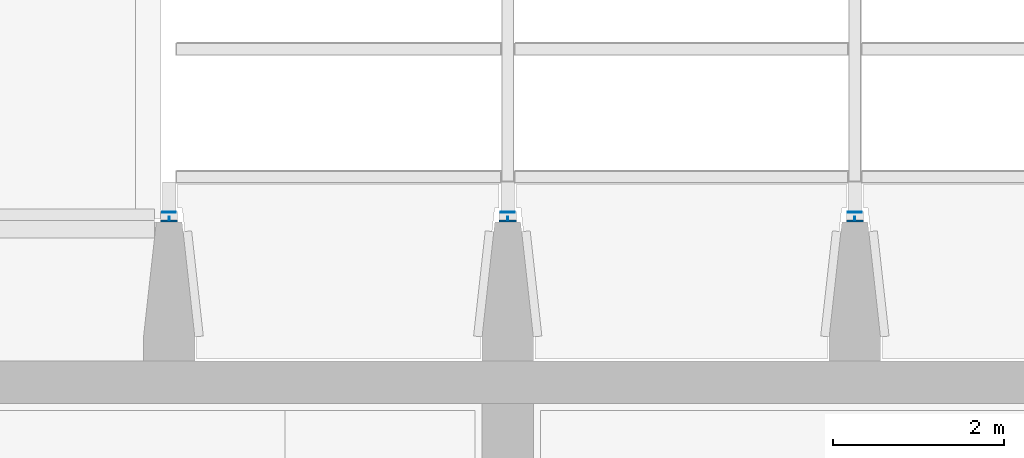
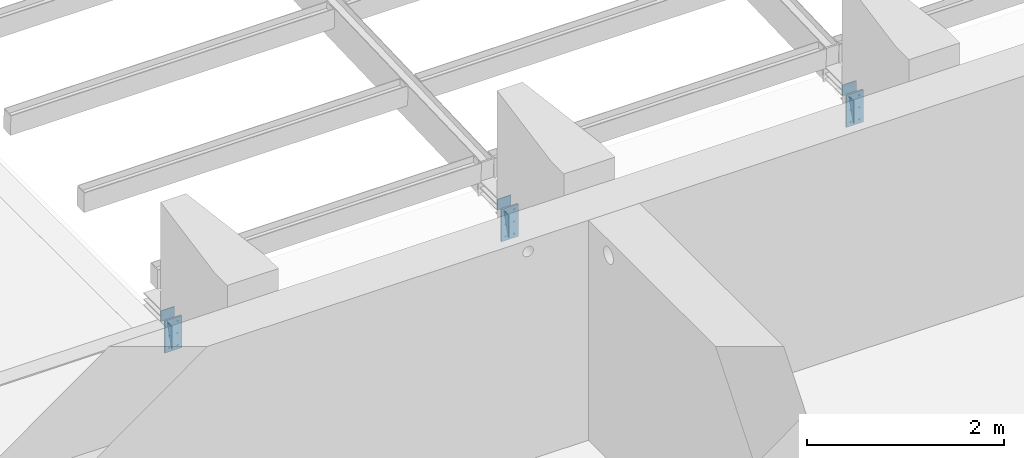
# One storey, part 8 of 31: 9 columns.
"""IFC2X3 building model written with IfcOpenShell, lengths in millimetres."""

from ifc_helpers import new_model, entity, si_unit, converted_unit, derived_unit, direction, frame, frame_2d, origin, origin_2d_with_axis, place, context, subcontext, project, spatial, rectangle, circle, extrude, boolean, clip, halfspace, source, transform, mapped, material, type_object, type_shapes, element, save


model = new_model("IFC2X3")

# Units and contexts
model_context = context("Model", 3, precision=0.01, world=origin(), true_north=direction((6.12303176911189e-17, 1.0)))
body_context = subcontext(model_context, "Body", "Model", "MODEL_VIEW")
ifc_project = project(units=[si_unit("LENGTHUNIT", "METRE", prefix="MILLI"), si_unit("AREAUNIT", "SQUARE_METRE"), si_unit("VOLUMEUNIT", "CUBIC_METRE"), converted_unit("PLANEANGLEUNIT", "DEGREE", entity("IfcRatioMeasure", 0.0174532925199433), si_unit("PLANEANGLEUNIT", "RADIAN"), dimensions=[0, 0, 0, 0, 0, 0, 0]), si_unit("MASSUNIT", "GRAM", prefix="KILO"), derived_unit("MASSDENSITYUNIT", [(si_unit("MASSUNIT", "GRAM", prefix="KILO"), 1), (si_unit("LENGTHUNIT", "METRE"), -3)]), si_unit("TIMEUNIT", "SECOND"), si_unit("FREQUENCYUNIT", "HERTZ"), si_unit("THERMODYNAMICTEMPERATUREUNIT", "DEGREE_CELSIUS"), derived_unit("THERMALTRANSMITTANCEUNIT", [(si_unit("MASSUNIT", "GRAM", prefix="KILO"), 1), (si_unit("THERMODYNAMICTEMPERATUREUNIT", "KELVIN"), -1), (si_unit("TIMEUNIT", "SECOND"), -3)]), derived_unit("VOLUMETRICFLOWRATEUNIT", [(si_unit("LENGTHUNIT", "METRE"), 3), (si_unit("TIMEUNIT", "SECOND"), -1)]), si_unit("ELECTRICCURRENTUNIT", "AMPERE"), si_unit("ELECTRICVOLTAGEUNIT", "VOLT"), si_unit("POWERUNIT", "WATT"), si_unit("FORCEUNIT", "NEWTON", prefix="KILO"), si_unit("ILLUMINANCEUNIT", "LUX"), si_unit("LUMINOUSFLUXUNIT", "LUMEN"), si_unit("LUMINOUSINTENSITYUNIT", "CANDELA"), derived_unit("USERDEFINED", [(si_unit("MASSUNIT", "GRAM", prefix="KILO"), -1), (si_unit("LENGTHUNIT", "METRE"), -2), (si_unit("TIMEUNIT", "SECOND"), 3), (si_unit("LUMINOUSFLUXUNIT", "LUMEN"), 1)]), derived_unit("LINEARVELOCITYUNIT", [(si_unit("LENGTHUNIT", "METRE"), 1), (si_unit("TIMEUNIT", "SECOND"), -1)]), si_unit("PRESSUREUNIT", "PASCAL"), derived_unit("USERDEFINED", [(si_unit("LENGTHUNIT", "METRE"), -2), (si_unit("MASSUNIT", "GRAM", prefix="KILO"), 1), (si_unit("TIMEUNIT", "SECOND"), -2)])], contexts=[model_context])

# Site, building, storey
site_placement = place(None, origin())
site = spatial("IfcSite", under=ifc_project, at=site_placement, Name="Default", CompositionType="ELEMENT")
building_placement = place(site_placement, origin())
building = spatial("IfcBuilding", under=site, at=building_placement, Name="niet gebruiken", CompositionType="ELEMENT")
storey_placement = place(building_placement, frame((0.0, 0.0, 12000.0)))
storey = spatial("IfcBuildingStorey", under=building, at=storey_placement, Name="03 derde verdieping", CompositionType="ELEMENT", Elevation=12000.0)

# Columns
ifc_material = material(Name="NLRS_h2_staal")
column_type_1 = type_object("IfcColumnType", Name="kolom stripstaal RECT_160x10", PredefinedType="COLUMN", material=ifc_material)
shared_shape_1 = source(origin(), body_context, "Body", "SweptSolid", [
    extrude(rectangle(XDim=10.0, YDim=160.0, at=origin_2d_with_axis()), frame((0.0, 0.0, 13333.0), z_axis=(0.0, 0.0, 1.0), x_axis=(0.0, -1.0, 0.0)), (0.0, 0.0, 1.0), 134.000000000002),
])
type_shapes(column_type_1, [shared_shape_1])
for number, where, name in (
    (1, (139750.0, 34965.0, -12000.0), "NLRS_28.11_SCO_TLB_stalen kolom stripstaal_gen:kolom stripstaal RECT_160x10"),
    (2, (135700.0, 34965.0, -12000.0), "NLRS_28.11_SCO_TLB_stalen kolom stripstaal_gen:kolom stripstaal RECT_160x10"),
    (3, (131750.0, 34965.0, -12000.0), "NLRS_28.11_SCO_TLB_stalen kolom stripstaal_gen:kolom stripstaal RECT_160x10"),
):
    element("IfcColumn", number, at=place(storey_placement, frame(where)), inside=storey, type_object=column_type_1, material=ifc_material, Name=name, ObjectType="kolom stripstaal RECT_160x10", context=body_context, shape_type="MappedRepresentation", body=[
        mapped(shared_shape_1, transform((0.0, 0.0, 0.0), scale=1.0)),
    ])
column_type_2 = type_object("IfcColumnType", Name="kolom stripstaal RECT_200x20", PredefinedType="COLUMN", material=ifc_material)
shared_shape_2 = source(origin(), body_context, "Body", "CSG", [
    boolean("DIFFERENCE", boolean("DIFFERENCE", boolean("DIFFERENCE", boolean("DIFFERENCE", boolean("DIFFERENCE", boolean("DIFFERENCE", extrude(rectangle(XDim=19.9999999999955, YDim=200.000000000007, at=frame_2d((2.16626716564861e-12, 0.0), x_axis=(1.0, 0.0))), frame((139750.0, 34860.0, 13015.0), z_axis=(0.0, 0.0, 1.0), x_axis=(0.0, -1.0, 0.0)), (0.0, 0.0, 1.0), 400.0), extrude(circle(Radius=9.0, at=origin_2d_with_axis()), frame((139800.0, 34870.0, 13065.0), z_axis=(0.0, -1.0, 0.0), x_axis=(1.0, 0.0, 0.0)), (0.0, 0.0, 1.0), 19.9999999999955)), extrude(circle(Radius=9.0, at=origin_2d_with_axis()), frame((139700.0, 34870.0, 13065.0), z_axis=(0.0, -1.0, 0.0), x_axis=(1.0, 0.0, 0.0)), (0.0, 0.0, 1.0), 19.9999999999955)), extrude(circle(Radius=9.0, at=origin_2d_with_axis()), frame((139800.0, 34870.0, 13215.0), z_axis=(0.0, -1.0, 0.0), x_axis=(1.0, 0.0, 0.0)), (0.0, 0.0, 1.0), 19.9999999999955)), extrude(circle(Radius=9.0, at=origin_2d_with_axis()), frame((139700.0, 34870.0, 13215.0), z_axis=(0.0, -1.0, 0.0), x_axis=(1.0, 0.0, 0.0)), (0.0, 0.0, 1.0), 19.9999999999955)), extrude(circle(Radius=9.0, at=origin_2d_with_axis()), frame((139800.0, 34870.0, 13365.0), z_axis=(0.0, -1.0, 0.0), x_axis=(1.0, 0.0, 0.0)), (0.0, 0.0, 1.0), 19.9999999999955)), extrude(circle(Radius=9.0, at=origin_2d_with_axis()), frame((139700.0, 34850.0, 13365.0), z_axis=(0.0, 1.0, 0.0), x_axis=(1.0, 0.0, 0.0)), (0.0, 0.0, 1.0), 19.9999999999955)),
])
type_shapes(column_type_2, [shared_shape_2])
column_1_placement = place(storey_placement, frame((0.0, 0.0, -12000.0)))
element("IfcColumn", 4, at=column_1_placement, inside=storey, type_object=column_type_2, material=ifc_material, Name="NLRS_28.11_SCO_TLB_stalen kolom stripstaal_gen:kolom stripstaal RECT_200x20", ObjectType="kolom stripstaal RECT_200x20", context=body_context, shape_type="MappedRepresentation", body=[
    mapped(shared_shape_2, transform((0.0, 0.0, 0.0), scale=1.0)),
])
column_type_3 = type_object("IfcColumnType", Name="kolom stripstaal RECT_100x10", PredefinedType="COLUMN", material=ifc_material)
shared_shape_3 = source(origin(), body_context, "Body", "Clipping", [
    clip(extrude(rectangle(XDim=9.99999999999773, YDim=99.9999999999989, at=origin_2d_with_axis()), frame((139750.0, 34920.0, 13015.0)), (0.0, 0.0, 1.0), 285.0), halfspace(frame((139465.0, 34880.0, 13015.0), z_axis=(0.0, 0.950397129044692, -0.311039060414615), x_axis=(1.0, 0.0, 0.0)), False)),
])
type_shapes(column_type_3, [shared_shape_3])
column_2_placement = place(storey_placement, frame((0.0, 0.0, -12000.0)))
element("IfcColumn", 5, at=column_2_placement, inside=storey, type_object=column_type_3, material=ifc_material, Name="NLRS_28.11_SCO_TLB_stalen kolom stripstaal_gen:kolom stripstaal RECT_100x10", ObjectType="kolom stripstaal RECT_100x10", context=body_context, shape_type="MappedRepresentation", body=[
    mapped(shared_shape_3, transform((0.0, 0.0, 0.0), scale=1.0)),
])
column_type_4 = type_object("IfcColumnType", Name="kolom stripstaal RECT_200x20", PredefinedType="COLUMN", material=ifc_material)
shared_shape_4 = source(origin(), body_context, "Body", "CSG", [
    boolean("DIFFERENCE", boolean("DIFFERENCE", boolean("DIFFERENCE", boolean("DIFFERENCE", boolean("DIFFERENCE", boolean("DIFFERENCE", extrude(rectangle(XDim=19.9999999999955, YDim=200.000000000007, at=frame_2d((-2.16626716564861e-12, 0.0), x_axis=(1.0, 0.0))), frame((135700.0, 34860.0, 13015.0), z_axis=(0.0, 0.0, 1.0), x_axis=(0.0, -1.0, 0.0)), (0.0, 0.0, 1.0), 400.0), extrude(circle(Radius=9.0, at=origin_2d_with_axis()), frame((135750.0, 34870.0, 13065.0), z_axis=(0.0, -1.0, 0.0), x_axis=(1.0, 0.0, 0.0)), (0.0, 0.0, 1.0), 19.9999999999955)), extrude(circle(Radius=9.0, at=origin_2d_with_axis()), frame((135650.0, 34870.0, 13065.0), z_axis=(0.0, -1.0, 0.0), x_axis=(1.0, 0.0, 0.0)), (0.0, 0.0, 1.0), 19.9999999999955)), extrude(circle(Radius=9.0, at=origin_2d_with_axis()), frame((135750.0, 34870.0, 13215.0), z_axis=(0.0, -1.0, 0.0), x_axis=(1.0, 0.0, 0.0)), (0.0, 0.0, 1.0), 19.9999999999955)), extrude(circle(Radius=9.0, at=origin_2d_with_axis()), frame((135650.0, 34870.0, 13215.0), z_axis=(0.0, -1.0, 0.0), x_axis=(1.0, 0.0, 0.0)), (0.0, 0.0, 1.0), 19.9999999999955)), extrude(circle(Radius=9.0, at=origin_2d_with_axis()), frame((135750.0, 34870.0, 13365.0), z_axis=(0.0, -1.0, 0.0), x_axis=(1.0, 0.0, 0.0)), (0.0, 0.0, 1.0), 19.9999999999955)), extrude(circle(Radius=9.0, at=origin_2d_with_axis()), frame((135650.0, 34850.0, 13365.0), z_axis=(0.0, 1.0, 0.0), x_axis=(1.0, 0.0, 0.0)), (0.0, 0.0, 1.0), 19.9999999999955)),
])
type_shapes(column_type_4, [shared_shape_4])
column_3_placement = place(storey_placement, frame((0.0, 0.0, -12000.0)))
element("IfcColumn", 6, at=column_3_placement, inside=storey, type_object=column_type_4, material=ifc_material, Name="NLRS_28.11_SCO_TLB_stalen kolom stripstaal_gen:kolom stripstaal RECT_200x20", ObjectType="kolom stripstaal RECT_200x20", context=body_context, shape_type="MappedRepresentation", body=[
    mapped(shared_shape_4, transform((0.0, 0.0, 0.0), scale=1.0)),
])
column_type_5 = type_object("IfcColumnType", Name="kolom stripstaal RECT_100x10", PredefinedType="COLUMN", material=ifc_material)
shared_shape_5 = source(origin(), body_context, "Body", "Clipping", [
    clip(extrude(rectangle(XDim=9.99999999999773, YDim=99.9999999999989, at=frame_2d((0.0, 2.16715534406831e-12), x_axis=(1.0, 0.0))), frame((135700.0, 34920.0, 13015.0)), (0.0, 0.0, 1.0), 285.0), halfspace(frame((135415.0, 34880.0, 13015.0), z_axis=(0.0, 0.950397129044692, -0.311039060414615), x_axis=(1.0, 0.0, 0.0)), False)),
])
type_shapes(column_type_5, [shared_shape_5])
column_4_placement = place(storey_placement, frame((0.0, 0.0, -12000.0)))
element("IfcColumn", 7, at=column_4_placement, inside=storey, type_object=column_type_5, material=ifc_material, Name="NLRS_28.11_SCO_TLB_stalen kolom stripstaal_gen:kolom stripstaal RECT_100x10", ObjectType="kolom stripstaal RECT_100x10", context=body_context, shape_type="MappedRepresentation", body=[
    mapped(shared_shape_5, transform((0.0, 0.0, 0.0), scale=1.0)),
])
column_type_6 = type_object("IfcColumnType", Name="kolom stripstaal RECT_200x20", PredefinedType="COLUMN", material=ifc_material)
shared_shape_6 = source(origin(), body_context, "Body", "CSG", [
    boolean("DIFFERENCE", boolean("DIFFERENCE", boolean("DIFFERENCE", boolean("DIFFERENCE", boolean("DIFFERENCE", boolean("DIFFERENCE", extrude(rectangle(XDim=19.9999999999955, YDim=200.000000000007, at=frame_2d((-2.16626716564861e-12, 1.73301373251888e-11), x_axis=(1.0, 0.0))), frame((131750.0, 34860.0, 13015.0), z_axis=(0.0, 0.0, 1.0), x_axis=(0.0, -1.0, 0.0)), (0.0, 0.0, 1.0), 400.0), extrude(circle(Radius=9.0, at=origin_2d_with_axis()), frame((131800.0, 34870.0, 13065.0), z_axis=(0.0, -1.0, 0.0), x_axis=(1.0, 0.0, 0.0)), (0.0, 0.0, 1.0), 19.9999999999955)), extrude(circle(Radius=9.0, at=origin_2d_with_axis()), frame((131700.0, 34870.0, 13065.0), z_axis=(0.0, -1.0, 0.0), x_axis=(1.0, 0.0, 0.0)), (0.0, 0.0, 1.0), 19.9999999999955)), extrude(circle(Radius=9.0, at=origin_2d_with_axis()), frame((131800.0, 34870.0, 13215.0), z_axis=(0.0, -1.0, 0.0), x_axis=(1.0, 0.0, 0.0)), (0.0, 0.0, 1.0), 19.9999999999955)), extrude(circle(Radius=9.0, at=origin_2d_with_axis()), frame((131700.0, 34870.0, 13215.0), z_axis=(0.0, -1.0, 0.0), x_axis=(1.0, 0.0, 0.0)), (0.0, 0.0, 1.0), 19.9999999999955)), extrude(circle(Radius=9.0, at=origin_2d_with_axis()), frame((131800.0, 34870.0, 13365.0), z_axis=(0.0, -1.0, 0.0), x_axis=(1.0, 0.0, 0.0)), (0.0, 0.0, 1.0), 19.9999999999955)), extrude(circle(Radius=9.0, at=origin_2d_with_axis()), frame((131700.0, 34850.0, 13365.0), z_axis=(0.0, 1.0, 0.0), x_axis=(1.0, 0.0, 0.0)), (0.0, 0.0, 1.0), 19.9999999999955)),
])
type_shapes(column_type_6, [shared_shape_6])
column_5_placement = place(storey_placement, frame((0.0, 0.0, -12000.0)))
element("IfcColumn", 8, at=column_5_placement, inside=storey, type_object=column_type_6, material=ifc_material, Name="NLRS_28.11_SCO_TLB_stalen kolom stripstaal_gen:kolom stripstaal RECT_200x20", ObjectType="kolom stripstaal RECT_200x20", context=body_context, shape_type="MappedRepresentation", body=[
    mapped(shared_shape_6, transform((0.0, 0.0, 0.0), scale=1.0)),
])
column_type_7 = type_object("IfcColumnType", Name="kolom stripstaal RECT_100x10", PredefinedType="COLUMN", material=ifc_material)
shared_shape_7 = source(origin(), body_context, "Body", "Clipping", [
    clip(extrude(rectangle(XDim=9.99999999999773, YDim=99.9999999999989, at=frame_2d((0.0, 2.16715534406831e-12), x_axis=(1.0, 0.0))), frame((131750.0, 34920.0, 13015.0)), (0.0, 0.0, 1.0), 285.0), halfspace(frame((131465.0, 34880.0, 13015.0), z_axis=(0.0, 0.950397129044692, -0.311039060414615), x_axis=(1.0, 0.0, 0.0)), False)),
])
type_shapes(column_type_7, [shared_shape_7])
column_6_placement = place(storey_placement, frame((0.0, 0.0, -12000.0)))
element("IfcColumn", 9, at=column_6_placement, inside=storey, type_object=column_type_7, material=ifc_material, Name="NLRS_28.11_SCO_TLB_stalen kolom stripstaal_gen:kolom stripstaal RECT_100x10", ObjectType="kolom stripstaal RECT_100x10", context=body_context, shape_type="MappedRepresentation", body=[
    mapped(shared_shape_7, transform((0.0, 0.0, 0.0), scale=1.0)),
])

save(model, "model.ifc")
